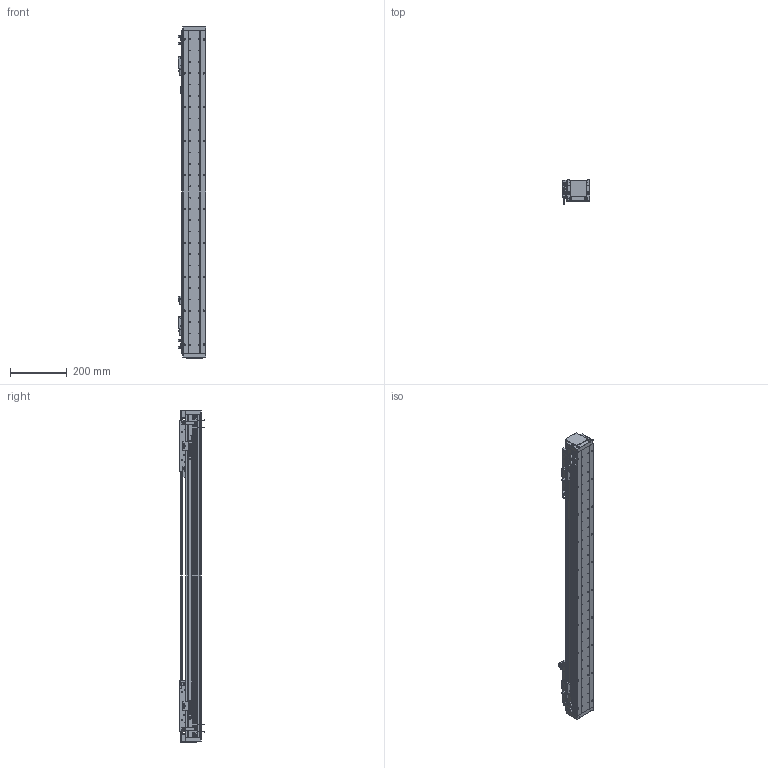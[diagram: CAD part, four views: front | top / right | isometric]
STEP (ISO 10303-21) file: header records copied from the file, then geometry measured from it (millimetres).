
FILE_DESCRIPTION (( 'STEP AP203' ), '1' );
FILE_NAME ('DA-A82-2-B2-T720-C010-0.2 眻盄萇儂.STEP', '2025-08-13T02:31:22', ( '' ), ( '' ), 'SwSTEP 2.0', 'SolidWorks 2019', '' );
FILE_SCHEMA (( 'CONFIG_CONTROL_DESIGN' ));
Length unit declared in the file: millimetre
Products named in the file (27): 复件 DKW-GJ-XJ-00 防撞橡胶^DA-A82-B2-T-C010-0.2-N 直线电机; 复件 DA82-DG-H-N-00 端盖^DA-A82-B2-T-C010-0.2-N 直线电机(默认_按加工_); 复件 DA95-GT-T-00 底座钢轨^IU-AU82-L 底座导轨; 葩璃 DMT-010 1米m 0.2M^DA-A82-B2-T-C010-0.2-N 眻盄萇儂; AU82-HT-M-00 賑雄怢啣; 葩璃 PM-L25^DA-A82-B2-T-C010-0.2-N 眻盄萇儂; AU82-M-00 珨极趙賑雄怢啣; 复件 XD-U-02  磁栅尺^DA-A82-B2-T-C010-0.2-N 直线电机; 葩璃 PM-T45^DA-A82-B2-T-C010-0.2-N 眻盄萇儂; AU82-M-00 珨极趙賑雄怢啣-1; 复件 DA95-B2-GT-00 滑块钢轨^AU82-M-00 一体化滑动台板; 复件 BKM02-W040-C1-TP-DA-3.0 直线电机动子^DA-A82-B2-T-C010-0.2-N 直线电机; 复件 DA82-GYP-ZJ-00 中间光电感应片^DA-A82-B2-T-C010-0.2-N 直线电机; 复件 纯铜油杯 6x6mm^AU82-M 滚珠滑台; IU-AU82-L-00 菁釱(L1140); DA-A82-2-B2-T720-C010-0.2 眻盄萇儂; 葩璃 BKM01-W040-TRL^DA-A82-B2-T-C010-0.2-N 眻盄萇儂; 复件 DA82-T-002-00 盖板^DA-A82-B2-T-C010-0.2-N 直线电机; AU82-M 幗紩賑怢-1; 复件 复件 DA82-XJ-00 缓冲橡胶^DA-A82-B2-T-C010-0.2-N 直线电机; 复件 DA82-GDZ-ZJ-00 中间光电固定座^DA-A82-B2-T-C010-0.2-N 直线电机; 复件 DA60-DMT-DTJ-00 读数头支架^DA-A82-B2-T-C010-0.2-N 直线电机; 复件 六角薄螺母 M3^DA-A82-B2-T-C010-0.2-N 直线电机; IU-AU82-L 菁釱絳寢; 葩璃 DA82-B2-DP-00 結え^AU82-M 幗紩賑怢; DA-A60-GYP-DMT-00 光电感应片^DA-A82-B2-T-C010-0.2-N 直线电机(默认); AU82-M 幗紩賑怢
Assembly tree (57 placements, depth 4):
  DA-A82-2-B2-T720-C010-0.2 眻盄萇儂
    IU-AU82-L 菁釱絳寢
      IU-AU82-L-00 菁釱(L1140)
      复件 DA95-GT-T-00 底座钢轨^IU-AU82-L 底座导轨  x2
    AU82-M 幗紩賑怢
      AU82-M-00 珨极趙賑雄怢啣
        AU82-HT-M-00 賑雄怢啣
        复件 DA95-B2-GT-00 滑块钢轨^AU82-M-00 一体化滑动台板  x4
      葩璃 DA82-B2-DP-00 結え^AU82-M 幗紩賑怢  x2
      复件 纯铜油杯 6x6mm^AU82-M 滚珠滑台  x2
    AU82-M 幗紩賑怢-1
      AU82-M-00 珨极趙賑雄怢啣-1
        AU82-HT-M-00 賑雄怢啣
        复件 DA95-B2-GT-00 滑块钢轨^AU82-M-00 一体化滑动台板  x4
      葩璃 DA82-B2-DP-00 結え^AU82-M 幗紩賑怢  x2
      复件 纯铜油杯 6x6mm^AU82-M 滚珠滑台  x2
    复件 BKM02-W040-C1-TP-DA-3.0 直线电机动子^DA-A82-B2-T-C010-0.2-N 直线电机  x2
    复件 DA60-DMT-DTJ-00 读数头支架^DA-A82-B2-T-C010-0.2-N 直线电机  x2
    葩璃 DMT-010 1米m 0.2M^DA-A82-B2-T-C010-0.2-N 眻盄萇儂  x2
    DA-A60-GYP-DMT-00 光电感应片^DA-A82-B2-T-C010-0.2-N 直线电机(默认)  x2
    复件 DA82-GDZ-ZJ-00 中间光电固定座^DA-A82-B2-T-C010-0.2-N 直线电机
    葩璃 PM-L25^DA-A82-B2-T-C010-0.2-N 眻盄萇儂
    复件 DA82-GYP-ZJ-00 中间光电感应片^DA-A82-B2-T-C010-0.2-N 直线电机
    复件 DKW-GJ-XJ-00 防撞橡胶^DA-A82-B2-T-C010-0.2-N 直线电机
    复件 复件 DA82-XJ-00 缓冲橡胶^DA-A82-B2-T-C010-0.2-N 直线电机  x2
    复件 DA82-DG-H-N-00 端盖^DA-A82-B2-T-C010-0.2-N 直线电机(默认_按加工_)  x2
    复件 DA82-T-002-00 盖板^DA-A82-B2-T-C010-0.2-N 直线电机
    葩璃 BKM01-W040-TRL^DA-A82-B2-T-C010-0.2-N 眻盄萇儂
    葩璃 PM-T45^DA-A82-B2-T-C010-0.2-N 眻盄萇儂  x4
    复件 XD-U-02  磁栅尺^DA-A82-B2-T-C010-0.2-N 直线电机
    复件 六角薄螺母 M3^DA-A82-B2-T-C010-0.2-N 直线电机  x8
Bounding box: 98.95 x 87.2 x 1174 mm (x, y, z)
Volume: 4157560.8 mm3; surface area: 1179133.3 mm2
Topology: 66 solids, 114 shells, 3173 faces, 8155 edges, 5032 vertices
Faces by surface type: cylinder 1405, plane 1258, cone 436, torus 46, bspline 20, sphere 8
Entity records: 63411 total; most frequent: CARTESIAN_POINT 13908, DIRECTION 9844, ORIENTED_EDGE 9262, EDGE_CURVE 4631, AXIS2_PLACEMENT_3D 3715, VERTEX_POINT 3003, VECTOR 2414, LINE 2414
